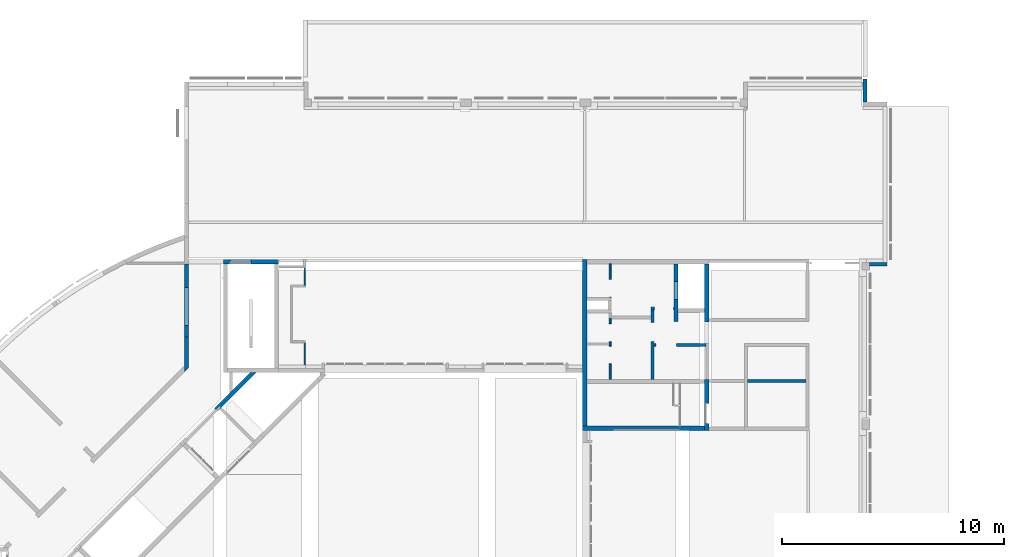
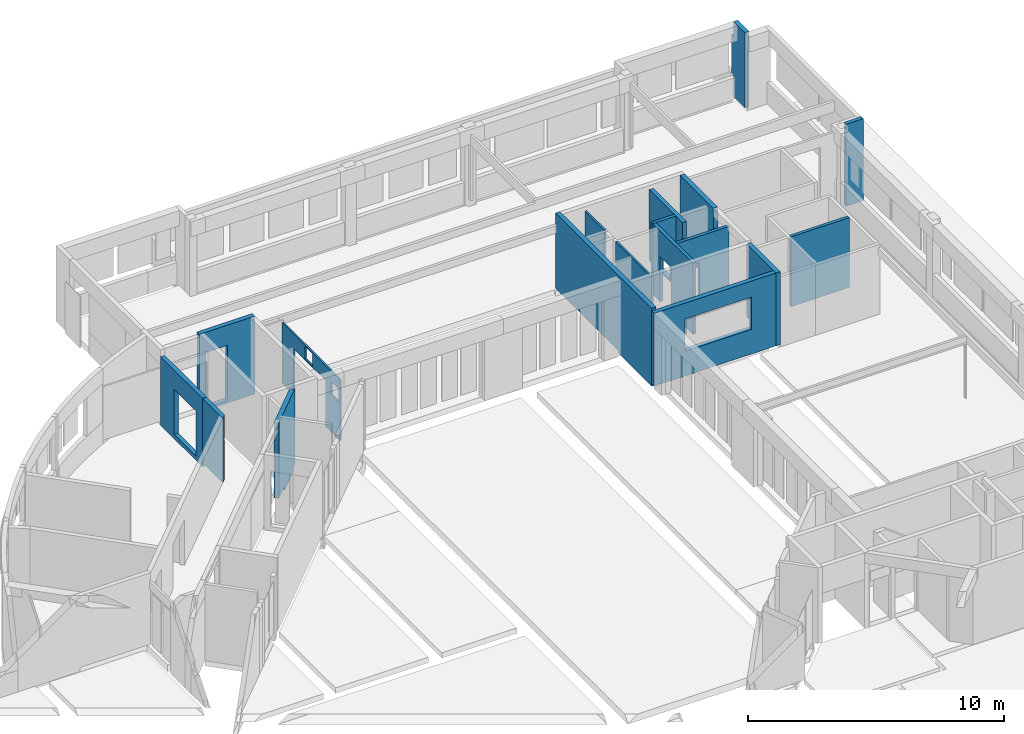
# One storey, part 30 of 30: 18 walls.
"""IFC4X3_ADD2 building model written with IfcOpenShell, lengths in millimetres."""

from ifc_helpers import new_model, si_unit, direction, frame, origin_with_axes, place, context, subcontext, project, spatial, polygons, source, transform, mapped, type_object, type_shapes, element, save


model = new_model("IFC4X3_ADD2")

# Units and contexts
model_context = context("Model", 3, precision=1e-05, world=origin_with_axes(), true_north=direction((0.0, 1.0)))
body_context = subcontext(model_context, "Body", "Model", "MODEL_VIEW")
ifc_project = project(units=[si_unit("LENGTHUNIT", "METRE", prefix="MILLI"), si_unit("AREAUNIT", "SQUARE_METRE"), si_unit("VOLUMEUNIT", "CUBIC_METRE"), si_unit("PLANEANGLEUNIT", "RADIAN"), si_unit("TIMEUNIT", "SECOND"), si_unit("MASSUNIT", "GRAM")], contexts=[model_context])

# Site, building, storey
site_placement = place(None, origin_with_axes())
site = spatial("IfcSite", under=ifc_project, at=site_placement, Name="Site", CompositionType="ELEMENT")
building_placement = place(site_placement, origin_with_axes())
building = spatial("IfcBuilding", under=site, at=building_placement, Name="IFC Building Story")
storey_placement = place(building_placement, origin_with_axes())
storey = spatial("IfcBuildingStorey", under=building, at=storey_placement, Name="000", Elevation=0.0)

# Walls
wall_type = type_object("IfcWallType", Name="Basic Wall_BB_10.01.62#01_Voorzetwand gipskarton_MS75 _ 50.25_ 75 mm3", PredefinedType="NOTDEFINED")
shared_shape = source(origin_with_axes(), body_context, "Body", "Tessellation", [
    polygons([(0.0, 37.4999999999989, 0.0), (870.002032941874, 37.5000000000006, 0.0), (870.002032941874, 24.9999999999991, 0.0), (0.0, 24.9999999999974, 0.0), (4520.00406588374, 37.499999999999, 0.0), (4520.00406588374, 37.499999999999, 2680.0), (4520.00406588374, 24.9999999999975, 2680.0), (4520.00406588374, 24.9999999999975, 0.0), (4395.00406588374, 37.4999999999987, 2910.0), (0.0, 37.4999999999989, 2910.0), (0.0, 24.9999999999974, 2910.0), (4395.00406588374, 24.9999999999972, 2910.0), (3308.00203294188, 37.500000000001, 2200.0), (3383.00203294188, 37.4999999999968, 2200.0), (3383.00203294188, 24.9999999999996, 2200.0), (870.002032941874, 24.9999999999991, 2200.0), (870.002032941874, 37.5000000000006, 2200.0), (3383.00203294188, 37.4999999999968, 0.0), (3383.00203294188, 24.9999999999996, 0.0), (3819.79587152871, 37.4999999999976, 2400.01498045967), (4419.7958715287, 37.4999999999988, 2400.01498045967), (4419.7958715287, 24.9999999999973, 2400.01498045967), (3819.79587152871, 24.9999999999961, 2400.01498045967), (4419.7958715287, 37.4999999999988, 1800.01498045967), (4419.7958715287, 24.9999999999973, 1800.01498045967), (3819.79587152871, 37.4999999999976, 1800.01498045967), (3819.79587152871, 24.9999999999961, 1800.01498045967), (1770.00203294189, 37.499999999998, 2855.0), (2370.00203294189, 37.4999999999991, 2855.0), (2370.00203294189, 24.9999999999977, 2855.0), (1770.00203294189, 24.9999999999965, 2855.0), (2370.00203294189, 37.4999999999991, 2255.0), (2370.00203294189, 24.9999999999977, 2255.0), (1770.00203294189, 37.499999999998, 2255.0), (1770.00203294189, 24.9999999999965, 2255.0), (4395.00406588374, 24.9999999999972, 2680.0), (4395.00406588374, 37.4999999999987, 2680.0)], [[[1, 2, 3, 4]], [[5, 6, 7, 8]], [[9, 10, 11, 12]], [[13, 14, 15]], [[15, 16, 17]], [[15, 17, 13]], [[2, 17, 16, 3]], [[18, 5, 8, 19]], [[14, 18, 19, 15]], [[10, 1, 4, 11]], [[20, 21, 22, 23]], [[21, 24, 25, 22]], [[24, 26, 27, 25]], [[26, 20, 23, 27]], [[28, 29, 30, 31]], [[29, 32, 33, 30]], [[32, 34, 35, 33]], [[34, 28, 31, 35]], [[36, 12, 23]], [[23, 22, 36]], [[23, 12, 15]], [[15, 27, 23]], [[27, 15, 19]], [[19, 8, 25]], [[19, 25, 27]], [[8, 7, 25]], [[7, 22, 25]], [[7, 36, 22]], [[35, 31, 16]], [[16, 33, 35]], [[16, 15, 33]], [[15, 12, 30]], [[15, 30, 33]], [[12, 31, 30]], [[12, 11, 31]], [[16, 31, 11]], [[11, 4, 3]], [[11, 3, 16]], [[37, 9, 12, 36]], [[6, 37, 36, 7]], [[37, 6, 21]], [[24, 21, 6]], [[24, 6, 5]], [[5, 18, 26]], [[5, 26, 24]], [[18, 14, 26]], [[17, 2, 1]], [[17, 1, 10]], [[32, 20, 13]], [[13, 34, 32]], [[13, 17, 34]], [[17, 10, 28]], [[17, 28, 34]], [[10, 29, 28]], [[10, 9, 29]], [[20, 14, 13]], [[20, 26, 14]], [[32, 29, 9]], [[32, 9, 20]], [[37, 21, 20]], [[20, 9, 37]]]),
    polygons([(870.002032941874, 24.9999999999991, 0.0), (0.0, 24.9999999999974, 0.0), (0.0, 24.9999999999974, 2910.0), (4395.00406588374, 24.9999999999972, 2910.0), (4395.00406588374, 24.9999999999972, 2680.0), (4520.00406588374, 24.9999999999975, 2680.0), (4520.00406588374, 24.9999999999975, 0.0), (3383.00203294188, 24.9999999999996, 0.0), (3383.00203294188, 24.9999999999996, 2200.0), (870.002032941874, 24.9999999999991, 2200.0), (2370.00203294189, 24.9999999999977, 2855.0), (1770.00203294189, 24.9999999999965, 2855.0), (1770.00203294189, 24.9999999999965, 2255.0), (2370.00203294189, 24.9999999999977, 2255.0), (4419.7958715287, 24.9999999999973, 2400.01498045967), (3819.79587152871, 24.9999999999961, 2400.01498045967), (3819.79587152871, 24.9999999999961, 1800.01498045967), (4419.7958715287, 24.9999999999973, 1800.01498045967), (0.0, 12.5000000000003, 0.0), (870.002032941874, 12.5000000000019, 0.0), (4520.00406588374, 22.500000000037, 2680.0), (4520.00406588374, 22.500000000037, 2910.0), (4520.00406588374, 12.5000000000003, 2910.0), (4520.00406588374, 12.5000000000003, 0.0), (4395.00406588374, 22.5000000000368, 2910.0), (0.0, 12.5000000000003, 2910.0), (870.002032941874, 12.5000000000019, 2200.0), (3383.00203294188, 12.5000000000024, 2200.0), (3383.00203294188, 12.5000000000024, 0.0), (3819.79587152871, 12.499999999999, 2400.01498045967), (4419.7958715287, 12.5000000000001, 2400.01498045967), (4419.7958715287, 12.5000000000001, 1800.01498045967), (3819.79587152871, 12.499999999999, 1800.01498045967), (1770.00203294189, 12.4999999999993, 2855.0), (2370.00203294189, 12.5000000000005, 2855.0), (2370.00203294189, 12.5000000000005, 2255.0), (1770.00203294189, 12.4999999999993, 2255.0), (4395.00406588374, 22.5000000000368, 2680.0)], [[[10, 1, 2]], [[10, 2, 3]], [[14, 11, 9]], [[9, 13, 14]], [[9, 10, 13]], [[10, 3, 12]], [[10, 12, 13]], [[3, 11, 12]], [[3, 4, 11]], [[5, 6, 15]], [[18, 15, 6]], [[18, 6, 7]], [[7, 8, 17]], [[7, 17, 18]], [[8, 9, 17]], [[9, 16, 17]], [[9, 11, 4]], [[9, 4, 16]], [[5, 15, 16]], [[16, 4, 5]], [[19, 2, 1, 20]], [[21, 22, 23]], [[21, 23, 24]], [[24, 7, 21]], [[7, 6, 21]], [[25, 4, 3]], [[25, 3, 26]], [[26, 23, 25]], [[23, 22, 25]], [[27, 10, 9, 28]], [[20, 1, 10, 27]], [[7, 24, 29, 8]], [[28, 9, 8, 29]], [[2, 19, 26, 3]], [[30, 16, 15, 31]], [[31, 15, 18, 32]], [[32, 18, 17, 33]], [[16, 30, 33, 17]], [[34, 12, 11, 35]], [[35, 11, 14, 36]], [[36, 14, 13, 37]], [[12, 34, 37, 13]], [[30, 23, 28]], [[28, 33, 30]], [[33, 28, 29]], [[29, 24, 32]], [[29, 32, 33]], [[24, 23, 32]], [[23, 31, 32]], [[23, 30, 31]], [[37, 34, 27]], [[27, 36, 37]], [[27, 28, 36]], [[28, 23, 35]], [[28, 35, 36]], [[23, 34, 35]], [[23, 26, 34]], [[27, 34, 26]], [[26, 19, 20]], [[26, 20, 27]], [[22, 21, 38, 25]], [[25, 38, 5, 4]], [[38, 21, 6, 5]]]),
    polygons([(870.002032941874, 12.5000000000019, 0.0), (0.0, 12.5000000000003, 0.0), (0.0, 12.5000000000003, 2910.0), (4520.00406588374, 12.5000000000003, 2910.0), (4520.00406588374, 12.5000000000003, 0.0), (3383.00203294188, 12.5000000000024, 0.0), (3383.00203294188, 12.5000000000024, 2200.0), (870.002032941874, 12.5000000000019, 2200.0), (2370.00203294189, 12.5000000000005, 2855.0), (1770.00203294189, 12.4999999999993, 2855.0), (1770.00203294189, 12.4999999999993, 2255.0), (2370.00203294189, 12.5000000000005, 2255.0), (4419.7958715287, 12.5000000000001, 2400.01498045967), (3819.79587152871, 12.499999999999, 2400.01498045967), (3819.79587152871, 12.499999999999, 1800.01498045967), (4419.7958715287, 12.5000000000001, 1800.01498045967), (0.0, -37.5000000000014, 0.0), (795.002032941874, -37.4999999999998, 0.0), (870.002032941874, -37.4999999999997, 0.0), (870.002032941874, -37.4999999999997, 2200.0), (3383.00203294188, -37.5000000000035, 2200.0), (3383.00203294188, -37.5000000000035, 0.0), (4520.00406588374, -37.5000000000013, 0.0), (4520.00406588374, -37.5000000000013, 2910.0), (0.0, -37.5000000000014, 2910.0), (1770.00203294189, -37.5000000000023, 2855.0), (2370.00203294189, -37.5000000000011, 2855.0), (2370.00203294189, -37.5000000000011, 2255.0), (1770.00203294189, -37.5000000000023, 2255.0), (3819.79587152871, -37.5000000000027, 2400.01498045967), (4419.7958715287, -37.5000000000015, 2400.01498045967), (4419.7958715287, -37.5000000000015, 1800.01498045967), (3819.79587152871, -37.5000000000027, 1800.01498045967)], [[[8, 1, 2]], [[8, 2, 3]], [[12, 9, 7]], [[7, 11, 12]], [[7, 8, 11]], [[8, 3, 10]], [[8, 10, 11]], [[3, 9, 10]], [[3, 4, 9]], [[16, 13, 4]], [[16, 4, 5]], [[5, 6, 15]], [[5, 15, 16]], [[6, 7, 15]], [[7, 14, 15]], [[7, 9, 4]], [[7, 4, 14]], [[4, 13, 14]], [[20, 29, 26]], [[20, 26, 25]], [[25, 18, 19]], [[25, 19, 20]], [[25, 17, 18]], [[20, 28, 29]], [[20, 21, 28]], [[30, 24, 21]], [[21, 33, 30]], [[33, 21, 22]], [[22, 23, 32]], [[22, 32, 33]], [[23, 24, 32]], [[24, 31, 32]], [[24, 30, 31]], [[24, 27, 21]], [[27, 28, 21]], [[24, 26, 27]], [[24, 25, 26]], [[18, 17, 2]], [[18, 2, 1]], [[1, 19, 18]], [[24, 23, 5, 4]], [[25, 24, 4, 3]], [[21, 20, 8, 7]], [[20, 19, 1, 8]], [[23, 22, 6, 5]], [[22, 21, 7, 6]], [[17, 25, 3, 2]], [[31, 30, 14, 13]], [[32, 31, 13, 16]], [[33, 32, 16, 15]], [[30, 33, 15, 14]], [[27, 26, 10, 9]], [[28, 27, 9, 12]], [[29, 28, 12, 11]], [[26, 29, 11, 10]]]),
])
type_shapes(wall_type, [shared_shape])
wall_1_placement = place(storey_placement, frame((-25222.5, 43340.0, 0.0), z_axis=(0.0, 0.0, 1.0), x_axis=(0.0, -1.0, 0.0)))
element("IfcWall", 1, at=wall_1_placement, inside=storey, type_object=wall_type, Name="Basic Wall:BB_10.01.62#01_Voorzetwand gipskarton_MS75 / 50.25, 75 mm", ObjectType="Basic Wall:BB_10.01.62#01_Voorzetwand gipskarton_MS75 / 50.25, 75 mm", PredefinedType="PARTITIONING", context=body_context, shape_type="MappedRepresentation", body=[
    mapped(shared_shape, transform((0.0, 0.0, 0.0))),
])
wall_2_placement = place(storey_placement, origin_with_axes())
element("IfcWall", 2, at=wall_2_placement, inside=storey, Name="Basic Wall:BB_XX_Wand uit beton, 190 mm", ObjectType="Basic Wall:BB_XX_Wand uit beton, 190 mm", PredefinedType="SOLIDWALL", context=body_context, shape_type="Tessellation", body=[
    polygons([(-60.0, 51694.99999990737, 850.0), (-60.0, 51694.99999990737, -200.0), (-60.0, 50794.99999990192, -200.0), (-60.0, 50794.99999990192, 3400.0), (-60.0, 51694.99999990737, 3400.0), (-60.0, 51694.99999990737, 2680.0), (-60.0, 51845.0, 2680.0), (-60.0, 51845.0, 850.0), (130.0, 51694.99999990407, -200.0), (130.0, 51694.99999990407, 850.0), (130.0, 51845.0, 850.0), (130.0, 51845.0, 2680.0), (130.0, 51694.99999990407, 2680.0), (130.0, 51694.99999990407, 3400.0), (130.0, 50794.99999990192, 3400.0), (130.0, 50794.99999990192, -200.0)], [[[1, 2, 3]], [[1, 3, 4]], [[6, 7, 8]], [[8, 1, 4]], [[8, 4, 6]], [[4, 5, 6]], [[13, 14, 15]], [[13, 15, 10]], [[13, 10, 11]], [[11, 12, 13]], [[15, 16, 9]], [[15, 9, 10]], [[1, 10, 9, 2]], [[8, 7, 12, 11]], [[6, 5, 14, 13]], [[3, 2, 9, 16]], [[4, 3, 16, 15]], [[5, 4, 15, 14]], [[8, 11, 10, 1]], [[6, 13, 12, 7]]]),
])
wall_3_placement = place(storey_placement, origin_with_axes())
element("IfcWall", 3, at=wall_3_placement, inside=storey, Name="Basic Wall:BB_XX_Wand uit beton, 170 mm", ObjectType="Basic Wall:BB_XX_Wand uit beton, 170 mm", PredefinedType="SOLIDWALL", context=body_context, shape_type="Tessellation", body=[
    polygons([(244.999999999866, 43575.0, -513.8668921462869), (244.999999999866, 43575.0, 3400.000000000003), (1030.0, 43575.0, 3400.000000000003), (1030.0, 43575.0, 840.000000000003), (1030.0, 43575.0, -200.000000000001), (839.999999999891, 43575.0, -200.000000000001), (839.999999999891, 43575.0, -513.8668921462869), (244.999999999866, 43405.0, -513.8668921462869), (1030.0, 43405.0, -513.8668921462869), (1030.0, 43405.0, 3400.000000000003), (244.999999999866, 43405.0, 3400.000000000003), (839.999999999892, 43425.00000000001, -513.8668921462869), (1030.0, 43425.00000000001, -513.8668921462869), (1029.999999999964, 43425.00000000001, -200.000000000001), (839.999999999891, 43425.00000000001, -200.000000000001)], [[[6, 7, 1]], [[6, 1, 4]], [[4, 5, 6]], [[1, 2, 3]], [[1, 3, 4]], [[8, 9, 10, 11]], [[12, 13, 9]], [[12, 9, 8]], [[8, 1, 7]], [[8, 7, 12]], [[2, 1, 8, 11]], [[3, 2, 11, 10]], [[4, 3, 10]], [[4, 10, 14]], [[14, 5, 4]], [[10, 9, 14]], [[9, 13, 14]], [[15, 14, 13, 12]], [[15, 12, 7, 6]], [[14, 15, 6, 5]]]),
])
wall_4_placement = place(storey_placement, origin_with_axes())
element("IfcWall", 4, at=wall_4_placement, inside=storey, Name="Basic Wall:BB_XX_Wand uit metselwerk, _EI60_43dB, 190 mm", ObjectType="Basic Wall:BB_XX_Wand uit metselwerk, _EI60_43dB, 190 mm", PredefinedType="SOLIDWALL", context=body_context, shape_type="Tessellation", body=[
    polygons([(-30660.0, 43500.0, -200.0), (-30660.0, 40215.00000000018, -199.9999999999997), (-30660.0, 40215.00000000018, 3070.0), (-30660.0, 43500.0, 3070.0), (-30660.0, 42438.96969619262, 2160.0), (-30660.0, 40718.96969619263, 2160.0), (-30660.0, 40718.96969619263, -5.002220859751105e-12), (-30660.0, 42438.96969619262, -5.002220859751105e-12), (-30470.0, 43500.0, -200.0), (-30470.0, 43500.0, 3070.0), (-30470.0, 40215.00000000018, 3070.0), (-30470.0, 40215.00000000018, -199.9999999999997), (-30470.0, 42438.96969619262, 2160.0), (-30470.0, 42438.96969619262, -5.002220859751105e-12), (-30470.0, 40718.96969619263, -5.002220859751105e-12), (-30470.0, 40718.96969619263, 2160.0)], [[[8, 5, 4]], [[8, 4, 1]], [[1, 2, 7]], [[1, 7, 8]], [[2, 3, 6]], [[2, 6, 7]], [[3, 4, 5]], [[3, 5, 6]], [[16, 13, 10]], [[16, 10, 11]], [[11, 12, 15]], [[11, 15, 16]], [[12, 9, 14]], [[12, 14, 15]], [[9, 10, 13]], [[9, 13, 14]], [[2, 1, 9, 12]], [[3, 2, 12, 11]], [[4, 3, 11, 10]], [[1, 4, 10, 9]], [[6, 5, 13, 16]], [[7, 6, 16, 15]], [[8, 7, 15, 14]], [[5, 8, 14, 13]]]),
])
wall_5_placement = place(storey_placement, origin_with_axes())
element("IfcWall", 5, at=wall_5_placement, inside=storey, Name="Basic Wall:BB_XX_Wand uit beton, 200 mm", ObjectType="Basic Wall:BB_XX_Wand uit beton, 200 mm", PredefinedType="SOLIDWALL", context=body_context, shape_type="Tessellation", body=[
    polygons([(-7200.0, 36200.0, -79.99999999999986), (-12700.00406588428, 36200.0, -79.99999999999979), (-12700.00406588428, 36200.0, 3400.0), (-7200.0, 36200.0, 3400.0), (-8300.0, 36200.0, 2640.0), (-11300.0, 36200.0, 2640.0), (-11300.0, 36200.0, 1100.0), (-8300.0, 36200.0, 1100.0), (-12700.00406588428, 36000.00000000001, -79.99999999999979), (-7200.000000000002, 36000.0, -79.99999999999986), (-7200.000000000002, 36000.0, 3400.0), (-12700.00406588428, 36000.00000000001, 3400.0), (-11300.0, 36000.0, 2640.0), (-8300.0, 36000.0, 2640.0), (-8300.0, 36000.0, 1100.0), (-11300.0, 36000.0, 1100.0)], [[[8, 5, 4]], [[8, 4, 1]], [[1, 2, 7]], [[1, 7, 8]], [[2, 3, 6]], [[2, 6, 7]], [[3, 4, 5]], [[3, 5, 6]], [[16, 13, 12]], [[16, 12, 9]], [[9, 10, 15]], [[9, 15, 16]], [[10, 11, 14]], [[10, 14, 15]], [[11, 12, 13]], [[11, 13, 14]], [[2, 1, 10, 9]], [[4, 3, 12, 11]], [[1, 4, 11, 10]], [[5, 14, 13, 6]], [[7, 16, 15, 8]], [[14, 5, 8, 15]], [[6, 13, 16, 7]], [[3, 2, 9, 12]]]),
])
wall_6_placement = place(storey_placement, origin_with_axes())
element("IfcWall", 6, at=wall_6_placement, inside=storey, Name="Basic Wall:BB_XX_Wand uit beton, 200 mm", ObjectType="Basic Wall:BB_XX_Wand uit beton, 200 mm", PredefinedType="SOLIDWALL", context=body_context, shape_type="Tessellation", body=[
    polygons([(-12500.0040658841, 36200.0, 3520.0), (-12500.0040658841, 36200.0, -200.0), (-12500.0040658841, 38794.9959341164, -200.0), (-12500.0040658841, 38794.9959341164, -80.0), (-12500.0040658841, 43499.99999999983, -80.0), (-12500.0040658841, 43699.99999999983, -80.0), (-12500.0040658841, 43699.99999999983, 3520.0), (-12500.0040658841, 43499.99999999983, 3520.0), (-12500.0040658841, 38299.99999999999, 3520.0), (-12500.0040658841, 38099.99999999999, 3520.0), (-12700.0040658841, 36200.0, -200.0), (-12700.0040658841, 36200.0, -80.0), (-12700.0040658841, 36200.0, 3400.0), (-12700.0040658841, 36200.0, 3520.0), (-12700.0040658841, 43699.99999999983, 3520.0), (-12700.0040658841, 43699.99999999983, -80.0), (-12700.0040658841, 38794.9959341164, -80.0), (-12700.0040658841, 38794.9959341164, -200.0), (-12700.0040658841, 38604.9959341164, -200.0)], [[[5, 6, 7]], [[5, 7, 8]], [[8, 9, 4]], [[8, 4, 5]], [[10, 1, 2]], [[10, 2, 4]], [[4, 9, 10]], [[2, 3, 4]], [[13, 14, 15]], [[17, 12, 13]], [[13, 15, 16]], [[13, 16, 17]], [[19, 11, 12]], [[19, 12, 17]], [[17, 18, 19]], [[7, 6, 16, 15]], [[5, 4, 17]], [[5, 17, 16]], [[16, 6, 5]], [[8, 7, 15]], [[15, 9, 8]], [[15, 14, 9]], [[14, 10, 9]], [[14, 1, 10]], [[19, 18, 3]], [[3, 2, 11]], [[3, 11, 19]], [[4, 3, 18, 17]], [[12, 11, 2]], [[2, 1, 13]], [[2, 13, 12]], [[1, 14, 13]]]),
])
wall_7_placement = place(storey_placement, origin_with_axes())
element("IfcWall", 7, at=wall_7_placement, inside=storey, Name="Basic Wall:BB_XX_Wand uit beton, 200 mm", ObjectType="Basic Wall:BB_XX_Wand uit beton, 200 mm", PredefinedType="SOLIDWALL", context=body_context, shape_type="Tessellation", body=[
    polygons([(-7200.0, 43500.0, -79.99999999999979), (-7200.0, 40885.00000000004, -79.99999999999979), (-7200.0, 40885.00000000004, 0.0), (-7200.0, 40885.00000000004, 2680.0), (-7200.0, 40885.00000000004, 3400.0), (-7200.0, 40900.00000000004, 3400.0), (-7200.0, 40900.00000000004, 3520.0), (-7200.0, 43500.0, 3520.0), (-7000.0, 43500.0, -79.99999999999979), (-7000.0, 43500.0, 3520.0), (-6999.999999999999, 40900.00000000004, 3520.0), (-6999.999999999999, 40900.00000000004, 3400.0), (-6999.999999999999, 40885.00000000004, 3400.0), (-6999.999999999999, 40885.00000000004, -79.99999999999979)], [[[6, 7, 8]], [[8, 4, 6]], [[4, 5, 6]], [[8, 1, 3]], [[8, 3, 4]], [[1, 2, 3]], [[12, 13, 14]], [[12, 14, 9]], [[12, 9, 10]], [[10, 11, 12]], [[2, 1, 9, 14]], [[8, 7, 11, 10]], [[1, 8, 10, 9]], [[12, 6, 5, 13]], [[3, 2, 14]], [[14, 13, 4]], [[14, 4, 3]], [[13, 5, 4]], [[7, 6, 12, 11]]]),
])
wall_8_placement = place(storey_placement, origin_with_axes())
element("IfcWall", 8, at=wall_8_placement, inside=storey, Name="Basic Wall:BB_XX_Wand uit beton, 200 mm", ObjectType="Basic Wall:BB_XX_Wand uit beton, 200 mm", PredefinedType="SOLIDWALL", context=body_context, shape_type="Tessellation", body=[
    polygons([(-7000.0, 38299.99999999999, -80.0), (-7000.0, 38299.99999999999, 3400.0), (-7000.0, 35999.99999999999, 3400.0), (-7000.0, 35999.99999999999, -80.0), (-7000.0, 36304.99999999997, -80.0), (-7000.000000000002, 36304.99999999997, 2550.0), (-7000.000000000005, 37214.99999999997, 2550.0), (-7000.0, 37214.99999999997, -80.0), (-7200.0, 38299.99999999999, 3400.0), (-7200.0, 38299.99999999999, -80.0), (-7200.0, 38099.99999999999, -80.0), (-7200.0, 37214.99999999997, -80.0), (-7200.000000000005, 37214.99999999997, 2550.0), (-7200.000000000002, 36304.99999999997, 2550.0), (-7200.000000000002, 36304.99999999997, -80.0), (-7200.000000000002, 35999.99999999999, -80.0), (-7200.000000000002, 35999.99999999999, 3400.0)], [[[7, 8, 1]], [[7, 1, 2]], [[2, 3, 6]], [[2, 6, 7]], [[3, 4, 5]], [[3, 5, 6]], [[14, 15, 16]], [[14, 16, 17]], [[17, 9, 13]], [[17, 13, 14]], [[9, 11, 12]], [[9, 12, 13]], [[9, 10, 11]], [[4, 16, 15, 5]], [[2, 1, 10, 9]], [[3, 2, 9, 17]], [[4, 3, 17, 16]], [[6, 14, 13, 7]], [[14, 6, 5, 15]], [[7, 13, 12, 8]], [[11, 10, 1]], [[1, 8, 12]], [[1, 12, 11]]]),
])
wall_9_placement = place(storey_placement, origin_with_axes())
element("IfcWall", 9, at=wall_9_placement, inside=storey, Name="Basic Wall:BB_XX_Wand uit beton, 200 mm", ObjectType="Basic Wall:BB_XX_Wand uit beton, 200 mm", PredefinedType="SOLIDWALL", context=body_context, shape_type="Tessellation", body=[
    polygons([(-29297.72204842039, 36998.11489554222, 3400.0), (-28624.00000000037, 37671.83694396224, 3400.0), (-28484.00000000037, 37811.83694396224, 3400.0), (-27695.84100984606, 38599.99593411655, 3400.0), (-27695.84100984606, 38599.99593411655, -200.000000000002), (-27865.84100984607, 38429.99593411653, -200.000000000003), (-27865.84100984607, 38429.99593411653, -400.0), (-27885.00406588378, 38410.83287807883, -400.0), (-28678.04753744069, 37617.78940652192, -400.0), (-28678.04753744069, 37617.78940652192, -200.000000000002), (-29297.72204842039, 36998.11489554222, -200.0), (-27412.99829737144, 38599.99593411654, 3400.0), (-29156.30069218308, 36856.69353930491, 3400.0), (-29156.30069218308, 36856.69353930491, -200.0), (-28536.62618120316, 37476.36805028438, -200.000000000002), (-28536.62618120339, 37476.3680502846, -400.0), (-27682.99829737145, 38329.99593411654, -400.0), (-27582.99829737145, 38429.99593411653, -400.0), (-27582.99829737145, 38429.99593411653, -200.000000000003), (-27412.99829737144, 38599.99593411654, -200.000000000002)], [[[8, 9, 6]], [[6, 7, 8]], [[6, 9, 3]], [[6, 3, 4]], [[4, 5, 6]], [[9, 2, 3]], [[10, 11, 1]], [[10, 1, 2]], [[2, 9, 10]], [[19, 20, 15]], [[15, 17, 18]], [[15, 18, 19]], [[15, 16, 17]], [[15, 20, 12]], [[15, 12, 13]], [[13, 14, 15]], [[8, 7, 18]], [[8, 18, 17]], [[17, 16, 9]], [[17, 9, 8]], [[13, 1, 11, 14]], [[2, 1, 13]], [[13, 3, 2]], [[13, 12, 4]], [[13, 4, 3]], [[5, 4, 12, 20]], [[19, 6, 5, 20]], [[6, 19, 18, 7]], [[15, 10, 9, 16]], [[10, 15, 14, 11]]]),
])
wall_10_placement = place(storey_placement, origin_with_axes())
element("IfcWall", 10, at=wall_10_placement, inside=storey, Name="Basic Wall:BB_XX_Wand uit metselwerk, 90 mm", ObjectType="Basic Wall:BB_XX_Wand uit metselwerk, 90 mm", PredefinedType="SOLIDWALL", context=body_context, shape_type="Tessellation", body=[
    polygons([(-11410.004065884, 41079.99999999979, -79.99999999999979), (-11410.004065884, 41079.99999999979, 3320.0), (-11410.004065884, 41009.99999999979, 3320.0), (-11410.004065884, 38300.0, 3320.0), (-11410.004065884, 38300.0, -79.99999999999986), (-11410.004065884, 38991.9999999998, -79.99999999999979), (-11410.004065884, 38991.9999999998, 2060.0), (-11410.004065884, 39797.9999999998, 2060.0), (-11410.004065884, 39797.99999999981, -79.99999999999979), (-11410.004065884, 40001.99999999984, -79.99999999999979), (-11410.004065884, 40001.99999999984, 2060.0), (-11410.004065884, 40807.99999999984, 2060.0), (-11410.004065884, 40807.99999999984, -79.99999999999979), (-11410.004065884, 41009.99999999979, -79.99999999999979), (-11500.004065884, 41079.99999999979, 3320.0), (-11500.004065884, 41079.99999999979, -79.99999999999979), (-11500.004065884, 40807.99999999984, -79.99999999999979), (-11500.004065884, 40807.99999999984, 2060.0), (-11500.004065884, 40001.99999999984, 2060.0), (-11500.004065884, 40001.99999999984, -79.99999999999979), (-11500.004065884, 39797.99999999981, -79.99999999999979), (-11500.004065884, 39797.9999999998, 2060.0), (-11500.004065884, 38991.9999999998, 2060.0), (-11500.004065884, 38991.9999999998, -79.99999999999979), (-11500.004065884, 38300.0, -79.99999999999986), (-11500.004065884, 38300.0, 3320.0)], [[[12, 13, 14]], [[12, 14, 3]], [[3, 11, 12]], [[3, 8, 11]], [[8, 9, 10]], [[8, 10, 11]], [[3, 4, 7]], [[3, 7, 8]], [[4, 5, 6]], [[4, 6, 7]], [[14, 1, 2]], [[14, 2, 3]], [[23, 24, 25]], [[23, 25, 26]], [[26, 22, 23]], [[26, 19, 22]], [[19, 20, 21]], [[19, 21, 22]], [[26, 15, 19]], [[15, 18, 19]], [[15, 16, 17]], [[15, 17, 18]], [[5, 25, 24, 6]], [[2, 1, 16, 15]], [[3, 2, 15]], [[15, 26, 4]], [[15, 4, 3]], [[5, 4, 26, 25]], [[8, 22, 21, 9]], [[23, 7, 6, 24]], [[22, 8, 7, 23]], [[19, 11, 10, 20]], [[12, 18, 17, 13]], [[11, 19, 18, 12]], [[9, 21, 20, 10]], [[14, 13, 17]], [[14, 17, 16]], [[16, 1, 14]]]),
])
wall_11_placement = place(storey_placement, origin_with_axes())
element("IfcWall", 11, at=wall_11_placement, inside=storey, Name="Basic Wall:BB_XX_Wand uit metselwerk, 90 mm", ObjectType="Basic Wall:BB_XX_Wand uit metselwerk, 90 mm", PredefinedType="SOLIDWALL", context=body_context, shape_type="Tessellation", body=[
    polygons([(-11410.004065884, 43500.00000000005, -79.99999999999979), (-11410.004065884, 43500.00000000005, 3320.0), (-11410.004065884, 41990.0, 3320.0), (-11410.004065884, 41990.0, -79.99999999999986), (-11410.004065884, 42002.00000000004, -79.99999999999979), (-11410.004065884, 42002.00000000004, 2060.0), (-11410.004065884, 42808.00000000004, 2060.0), (-11410.004065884, 42808.00000000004, -79.99999999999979), (-11500.004065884, 43500.00000000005, 3320.0), (-11500.004065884, 43500.00000000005, -79.99999999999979), (-11500.004065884, 42808.00000000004, -79.99999999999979), (-11500.004065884, 42808.00000000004, 2060.0), (-11500.004065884, 42002.00000000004, 2060.0), (-11500.004065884, 42002.00000000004, -79.99999999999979), (-11500.004065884, 41990.0, -79.99999999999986), (-11500.004065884, 41990.0, 3320.0)], [[[7, 8, 1]], [[7, 1, 2]], [[2, 3, 6]], [[2, 6, 7]], [[6, 3, 4]], [[4, 5, 6]], [[13, 14, 15]], [[15, 16, 13]], [[16, 9, 12]], [[16, 12, 13]], [[9, 10, 11]], [[9, 11, 12]], [[4, 15, 14, 5]], [[2, 1, 10, 9]], [[3, 2, 9, 16]], [[4, 3, 16, 15]], [[13, 6, 5, 14]], [[7, 12, 11, 8]], [[6, 13, 12, 7]], [[10, 1, 8, 11]]]),
])
wall_12_placement = place(storey_placement, origin_with_axes())
element("IfcWall", 12, at=wall_12_placement, inside=storey, Name="Basic Wall:BB_XX_Wand uit metselwerk, 140 mm", ObjectType="Basic Wall:BB_XX_Wand uit metselwerk, 140 mm", PredefinedType="SOLIDWALL", context=body_context, shape_type="Tessellation", body=[
    polygons([(-9620.0, 41560.0, 3320.0), (-8590.0, 41560.0, 3320.0), (-8590.0, 41560.0, -79.99999999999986), (-8590.250677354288, 41560.0, -79.99999999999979), (-8590.250677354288, 41560.0, 2060.0), (-9450.250677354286, 41560.0, 2060.0), (-9450.250677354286, 41560.0, -79.99999999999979), (-9620.0, 41560.0, -79.99999999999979), (-8590.0, 41420.0, 3320.0), (-9480.000000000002, 41420.0, 3320.0), (-9620.0, 41420.0, 3320.0), (-9620.0, 41420.0, -79.99999999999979), (-9480.000000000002, 41420.0, -79.99999999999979), (-9450.250677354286, 41420.0, -79.99999999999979), (-9450.250677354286, 41420.0, 2060.0), (-8590.250677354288, 41420.0, 2060.0), (-8590.250677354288, 41420.0, -79.99999999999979), (-8590.0, 41420.0, -79.99999999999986)], [[[6, 7, 8]], [[6, 8, 1]], [[1, 2, 5]], [[1, 5, 6]], [[5, 2, 3]], [[3, 4, 5]], [[10, 11, 12]], [[10, 12, 13]], [[16, 17, 18]], [[18, 9, 16]], [[9, 10, 15]], [[9, 15, 16]], [[15, 10, 13]], [[13, 14, 15]], [[3, 18, 17, 4]], [[10, 9, 2]], [[10, 2, 1]], [[1, 11, 10]], [[3, 2, 9, 18]], [[1, 8, 12, 11]], [[6, 15, 14, 7]], [[15, 6, 5, 16]], [[16, 5, 4, 17]], [[13, 12, 8]], [[13, 8, 7]], [[7, 14, 13]]]),
])
wall_13_placement = place(storey_placement, origin_with_axes())
element("IfcWall", 13, at=wall_13_placement, inside=storey, Name="Basic Wall:BB_XX_Wand uit metselwerk, 140 mm", ObjectType="Basic Wall:BB_XX_Wand uit metselwerk, 140 mm", PredefinedType="SOLIDWALL", context=body_context, shape_type="Tessellation", body=[
    polygons([(-9619.999999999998, 38300.0000000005, -79.99999999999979), (-9619.999999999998, 38300.0000000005, 3320.0), (-9620.0, 41010.0000000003, 3320.0), (-9620.0, 41150.00000000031, 3320.0), (-9620.0, 41420.0, 3320.0), (-9620.0, 41420.0, -79.99999999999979), (-9620.0, 41150.00000000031, -79.99999999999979), (-9620.0, 41010.0000000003, -79.99999999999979), (-9620.0, 40870.00000000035, -79.99999999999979), (-9620.0, 40870.00000000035, 2060.0), (-9620.0, 40010.00000000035, 2060.0), (-9620.0, 40010.00000000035, -79.99999999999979), (-9480.0, 38300.0000000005, 3320.0), (-9480.0, 38300.0000000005, -79.99999999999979), (-9479.999999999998, 40010.00000000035, -79.99999999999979), (-9479.999999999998, 40010.00000000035, 2060.0), (-9480.0, 40870.00000000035, 2060.0), (-9480.0, 40870.00000000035, -79.99999999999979), (-9480.0, 41420.0, -79.99999999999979), (-9480.0, 41420.0, 3320.0)], [[[4, 5, 6]], [[4, 6, 7]], [[7, 8, 3]], [[7, 3, 4]], [[11, 12, 1]], [[11, 1, 2]], [[2, 3, 11]], [[3, 10, 11]], [[3, 8, 9]], [[3, 9, 10]], [[17, 18, 19]], [[17, 19, 20]], [[20, 16, 17]], [[16, 20, 13]], [[13, 14, 15]], [[13, 15, 16]], [[7, 6, 19]], [[19, 18, 8]], [[19, 8, 7]], [[18, 9, 8]], [[2, 1, 14, 13]], [[3, 2, 13]], [[3, 13, 20]], [[20, 4, 3]], [[20, 5, 4]], [[6, 5, 20, 19]], [[11, 16, 15, 12]], [[17, 10, 9, 18]], [[16, 11, 10, 17]], [[14, 1, 12, 15]]]),
])
wall_14_placement = place(storey_placement, origin_with_axes())
element("IfcWall", 14, at=wall_14_placement, inside=storey, Name="Basic Wall:BB_XX_Wand uit metselwerk, 140 mm", ObjectType="Basic Wall:BB_XX_Wand uit metselwerk, 140 mm", PredefinedType="SOLIDWALL", context=body_context, shape_type="Tessellation", body=[
    polygons([(-7139.99999999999, 39770.0, -79.99999999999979), (-7139.99999999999, 39770.0, 3320.0), (-9479.999999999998, 39770.0, 3320.0), (-9479.999999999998, 39770.0, -79.99999999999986), (-9379.999999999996, 39770.0, -79.99999999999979), (-9379.999999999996, 39770.0, 2060.0), (-8470.0, 39770.0, 2060.0), (-8470.0, 39770.0, -79.99999999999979), (-7139.99999999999, 39910.0, 3320.0), (-7139.99999999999, 39910.0, 3140.0), (-7139.99999999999, 39910.0, -79.99999999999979), (-8470.0, 39910.0, -79.99999999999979), (-8470.0, 39910.0, 2060.0), (-9379.999999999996, 39910.0, 2060.0), (-9379.999999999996, 39910.0, -79.99999999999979), (-9479.999999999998, 39910.0, -79.99999999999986), (-9479.999999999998, 39910.0, 3320.0)], [[[7, 8, 1]], [[7, 1, 2]], [[2, 3, 7]], [[3, 6, 7]], [[6, 3, 4]], [[4, 5, 6]], [[14, 15, 16]], [[16, 17, 14]], [[17, 13, 14]], [[13, 17, 10]], [[10, 11, 12]], [[10, 12, 13]], [[17, 9, 10]], [[4, 16, 15, 5]], [[10, 9, 2]], [[2, 1, 11]], [[2, 11, 10]], [[3, 2, 9, 17]], [[4, 3, 17, 16]], [[7, 13, 12, 8]], [[14, 6, 5, 15]], [[13, 7, 6, 14]], [[11, 1, 8, 12]]]),
])
wall_15_placement = place(storey_placement, origin_with_axes())
element("IfcWall", 15, at=wall_15_placement, inside=storey, Name="Basic Wall:BB_XX_Wand uit metselwerk, 190 mm", ObjectType="Basic Wall:BB_XX_Wand uit metselwerk, 190 mm", PredefinedType="SOLIDWALL", context=body_context, shape_type="Tessellation", body=[
    polygons([(-8590.0, 43500.0, -79.99999999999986), (-8590.0, 40900.00000000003, -79.99999999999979), (-8590.0, 40900.00000000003, 3320.0), (-8590.0, 43500.0, 3320.0), (-8590.0, 42699.99999999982, 2.899014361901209e-12), (-8590.0, 42699.99999999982, 1545.0), (-8590.0, 41889.99999999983, 1545.0), (-8590.0, 41889.99999999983, 2.899014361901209e-12), (-8400.0, 40900.00000000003, -79.99999999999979), (-8400.0, 43500.0, -79.99999999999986), (-8400.0, 43500.0, 3320.0), (-8400.0, 40900.00000000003, 3320.0), (-8400.0, 42699.99999999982, 1545.0), (-8400.0, 42699.99999999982, 2.899014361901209e-12), (-8400.0, 41889.99999999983, 2.899014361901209e-12), (-8400.0, 41889.99999999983, 1545.0)], [[[8, 5, 1]], [[1, 2, 8]], [[2, 3, 7]], [[2, 7, 8]], [[3, 4, 6]], [[3, 6, 7]], [[4, 1, 6]], [[1, 5, 6]], [[13, 10, 11]], [[11, 12, 16]], [[11, 16, 13]], [[12, 9, 15]], [[12, 15, 16]], [[9, 14, 15]], [[9, 10, 14]], [[10, 13, 14]], [[2, 1, 10, 9]], [[3, 2, 9, 12]], [[4, 3, 12, 11]], [[1, 4, 11, 10]], [[13, 6, 5, 14]], [[14, 5, 8, 15]], [[15, 8, 7, 16]], [[6, 13, 16, 7]]]),
])
wall_16_placement = place(storey_placement, origin_with_axes())
element("IfcWall", 16, at=wall_16_placement, inside=storey, Name="Basic Wall:BB_XX_Wand uit beton, 200 mm", ObjectType="Basic Wall:BB_XX_Wand uit beton, 200 mm", PredefinedType="SOLIDWALL", context=body_context, shape_type="Tessellation", body=[
    polygons([(-28900.0, 43500.00000000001, -200.0), (-28700.0, 43500.00000000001, -200.0), (-26400.00000000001, 43500.00000000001, -200.0), (-26400.00000000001, 43500.00000000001, -80.0), (-26400.00000000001, 43500.00000000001, 3520.0), (-26600.00000000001, 43500.00000000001, 3520.0), (-28700.0, 43500.00000000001, 3520.0), (-28900.0, 43500.00000000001, 3520.0), (-27640.00000000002, 43500.00000000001, 2550.00000000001), (-27640.00000000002, 43500.00000000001, -80.0), (-28600.00000000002, 43500.00000000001, -80.0), (-28600.00000000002, 43500.00000000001, 2550.00000000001), (-28900.0, 43700.0, -200.0), (-28900.0, 43700.0, 3520.0), (-26400.00000000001, 43700.0, 3520.0), (-26400.00000000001, 43700.0, -200.0), (-27640.00000000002, 43700.0, 2550.00000000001), (-28600.00000000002, 43700.0, 2550.00000000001), (-28600.00000000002, 43700.0, -80.0), (-27640.00000000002, 43700.0, -80.0)], [[[7, 8, 1]], [[7, 1, 2]], [[4, 5, 6]], [[4, 6, 9]], [[4, 9, 10]], [[12, 9, 6]], [[12, 6, 7]], [[7, 2, 11]], [[7, 11, 12]], [[2, 10, 11]], [[2, 3, 4]], [[2, 4, 10]], [[20, 17, 15]], [[20, 15, 16]], [[20, 16, 13]], [[13, 19, 20]], [[13, 14, 18]], [[13, 18, 19]], [[14, 15, 17]], [[14, 17, 18]], [[4, 3, 16]], [[16, 15, 5]], [[16, 5, 4]], [[2, 1, 13]], [[13, 16, 3]], [[13, 3, 2]], [[6, 5, 15]], [[15, 14, 7]], [[15, 7, 6]], [[14, 8, 7]], [[10, 9, 17, 20]], [[11, 10, 20, 19]], [[12, 11, 19, 18]], [[9, 12, 18, 17]], [[1, 8, 14, 13]]]),
])
wall_17_placement = place(storey_placement, origin_with_axes())
element("IfcWall", 17, at=wall_17_placement, inside=storey, Name="Basic Wall:BB_03.09.24#06_Wand uit metselwerk_EI60_43dB, 190 mm", ObjectType="Basic Wall:BB_03.09.24#06_Wand uit metselwerk_EI60_43dB, 190 mm", PredefinedType="SOLIDWALL", context=body_context, shape_type="Tessellation", body=[
    polygons([(-30660.0, 38633.96969619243, 3070.0), (-30660.0, 38902.67027304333, 3070.0), (-30660.0, 40215.0, 3070.0), (-30660.0, 40215.0, -10.0), (-30660.0, 38902.67027304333, -10.0), (-30660.0, 38633.96969619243, -10.0), (-30470.0, 40215.0, 3070.0), (-30470.0, 38823.96969619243, 3070.0), (-30470.0, 38823.96969619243, -10.0), (-30470.0, 40215.0, -10.0)], [[[2, 3, 4]], [[2, 4, 5]], [[5, 6, 1]], [[5, 1, 2]], [[7, 8, 9, 10]], [[2, 1, 8]], [[8, 7, 3]], [[8, 3, 2]], [[3, 7, 10, 4]], [[8, 1, 6, 9]], [[5, 4, 10]], [[5, 10, 9]], [[9, 6, 5]]]),
])
wall_18_placement = place(storey_placement, origin_with_axes())
element("IfcWall", 18, at=wall_18_placement, inside=storey, Name="Basic Wall:BB_03.09.24#01_Wand uit metselwerk, 140 mm", ObjectType="Basic Wall:BB_03.09.24#01_Wand uit metselwerk, 140 mm", PredefinedType="SOLIDWALL", context=body_context, shape_type="Tessellation", body=[
    polygons([(-2635.00000000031, 38160.00000000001, -200.0), (-2635.00000000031, 38160.00000000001, 3140.0), (-5259.999999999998, 38160.0, 3140.0), (-5259.999999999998, 38160.0, -200.0), (-2635.00000000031, 38300.0, 3140.0), (-2635.00000000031, 38300.0, -200.0), (-5259.999999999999, 38300.0, -200.0), (-5259.999999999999, 38300.0, 3140.0)], [[[1, 2, 3, 4]], [[5, 6, 7, 8]], [[6, 1, 4, 7]], [[2, 1, 6, 5]], [[2, 5, 8, 3]], [[4, 3, 8, 7]]]),
])

save(model, "model.ifc")
